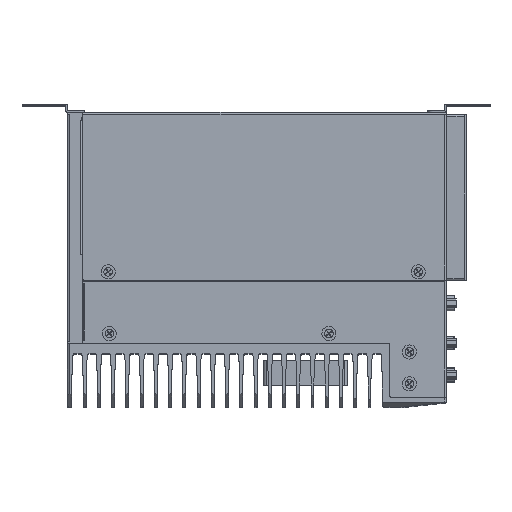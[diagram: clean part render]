
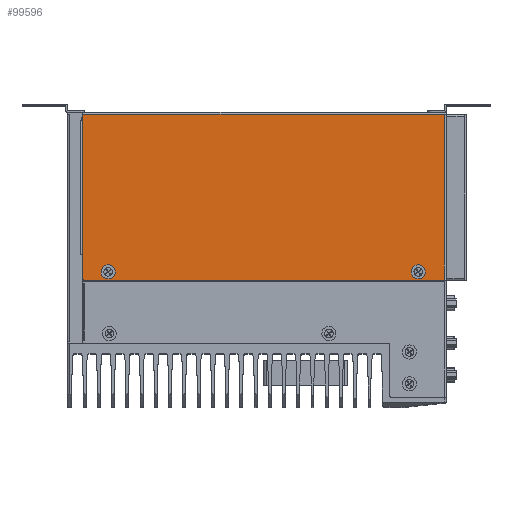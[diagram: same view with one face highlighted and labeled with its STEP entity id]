
A CAD part, top view. The second image highlights one B-rep face of the part: STEP entity #99596.
In plain terms, the highlighted planar face has unit normal (0, 0, 1) as drawn and (1, 0, 0) by its records, which use the part's own axes.
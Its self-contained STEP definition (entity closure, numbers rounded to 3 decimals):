
#3100 = ORIENTED_EDGE ( 'NONE', *, *, #84833, .F. ) ;
#4393 = CARTESIAN_POINT ( 'NONE',  ( 104.9, -108.4, -1.1 ) ) ;
#4553 = CARTESIAN_POINT ( 'NONE',  ( 104.9, 107.3, -100.1 ) ) ;
#9026 = DIRECTION ( 'NONE',  ( 0., 0., -1. ) ) ;
#10127 = VECTOR ( 'NONE', #46558, 1000. ) ;
#10491 = CARTESIAN_POINT ( 'NONE',  ( 104.9, -56.888, 0. ) ) ;
#10864 = VERTEX_POINT ( 'NONE', #95960 ) ;
#10897 = DIRECTION ( 'NONE',  ( 1., 0., 0. ) ) ;
#11321 = DIRECTION ( 'NONE',  ( 0., 0., 1. ) ) ;
#11492 = ORIENTED_EDGE ( 'NONE', *, *, #49297, .F. ) ;
#12716 = CIRCLE ( 'NONE', #95953, 1. ) ;
#13445 = ORIENTED_EDGE ( 'NONE', *, *, #74373, .F. ) ;
#15112 = CARTESIAN_POINT ( 'NONE',  ( 104.9, -108.4, -50.6 ) ) ;
#17454 = LINE ( 'NONE', #103134, #10127 ) ;
#19196 = AXIS2_PLACEMENT_3D ( 'NONE', #46713, #123680, #113720 ) ;
#20103 = CARTESIAN_POINT ( 'NONE',  ( 104.9, 108.4, -1.2 ) ) ;
#23943 = ORIENTED_EDGE ( 'NONE', *, *, #45579, .T. ) ;
#30615 = CARTESIAN_POINT ( 'NONE',  ( 104.9, 107.3, 0. ) ) ;
#31043 = DIRECTION ( 'NONE',  ( 0., 0., -1. ) ) ;
#31414 = VERTEX_POINT ( 'NONE', #113282 ) ;
#33744 = LINE ( 'NONE', #94937, #48772 ) ;
#36125 = DIRECTION ( 'NONE',  ( 0., 0., -1. ) ) ;
#36661 = EDGE_CURVE ( 'NONE', #117156, #10864, #62979, .T. ) ;
#40774 = ORIENTED_EDGE ( 'NONE', *, *, #96445, .F. ) ;
#41697 = VECTOR ( 'NONE', #11321, 1000. ) ;
#43891 = CARTESIAN_POINT ( 'NONE',  ( 104.9, 91.7, -92.65 ) ) ;
#44939 = CARTESIAN_POINT ( 'NONE',  ( 104.9, -107.4, -99.1 ) ) ;
#45579 = EDGE_CURVE ( 'NONE', #10864, #117156, #93081, .T. ) ;
#46107 = VERTEX_POINT ( 'NONE', #95664 ) ;
#46558 = DIRECTION ( 'NONE',  ( 0., -1., 0. ) ) ;
#46713 = CARTESIAN_POINT ( 'NONE',  ( 104.9, -93.3, -95.2 ) ) ;
#47371 = VERTEX_POINT ( 'NONE', #124147 ) ;
#48772 = VECTOR ( 'NONE', #66847, 1000. ) ;
#49297 = EDGE_CURVE ( 'NONE', #58208, #31414, #17454, .T. ) ;
#52972 = AXIS2_PLACEMENT_3D ( 'NONE', #86129, #85712, #9026 ) ;
#53087 = EDGE_CURVE ( 'NONE', #71326, #117621, #82234, .T. ) ;
#53608 = AXIS2_PLACEMENT_3D ( 'NONE', #84540, #112190, #121339 ) ;
#56484 = ORIENTED_EDGE ( 'NONE', *, *, #99614, .T. ) ;
#56513 = EDGE_CURVE ( 'NONE', #117621, #71326, #93091, .T. ) ;
#56546 = AXIS2_PLACEMENT_3D ( 'NONE', #10491, #10897, #88018 ) ;
#57088 = ORIENTED_EDGE ( 'NONE', *, *, #36661, .T. ) ;
#57522 = LINE ( 'NONE', #90001, #104024 ) ;
#58012 = LINE ( 'NONE', #30615, #41697 ) ;
#58208 = VERTEX_POINT ( 'NONE', #4553 ) ;
#60306 = VECTOR ( 'NONE', #84202, 1000. ) ;
#61209 = VERTEX_POINT ( 'NONE', #4393 ) ;
#62504 = CARTESIAN_POINT ( 'NONE',  ( 104.9, 107.3, -1.2 ) ) ;
#62979 = CIRCLE ( 'NONE', #53608, 2.55 ) ;
#65162 = ORIENTED_EDGE ( 'NONE', *, *, #94833, .F. ) ;
#66847 = DIRECTION ( 'NONE',  ( 0., -1., 0. ) ) ;
#69685 = EDGE_CURVE ( 'NONE', #31414, #47371, #12716, .T. ) ;
#71070 = ORIENTED_EDGE ( 'NONE', *, *, #56513, .T. ) ;
#71326 = VERTEX_POINT ( 'NONE', #73419 ) ;
#73115 = CARTESIAN_POINT ( 'NONE',  ( 104.9, -93.3, -97.75 ) ) ;
#73419 = CARTESIAN_POINT ( 'NONE',  ( 104.9, -93.3, -92.65 ) ) ;
#73784 = ORIENTED_EDGE ( 'NONE', *, *, #53087, .T. ) ;
#74373 = EDGE_CURVE ( 'NONE', #61209, #46107, #57522, .T. ) ;
#74567 = FACE_BOUND ( 'NONE', #122145, .T. ) ;
#75194 = VECTOR ( 'NONE', #80667, 1000. ) ;
#79635 = DIRECTION ( 'NONE',  ( -1., 0., 0. ) ) ;
#80505 = FACE_OUTER_BOUND ( 'NONE', #119230, .T. ) ;
#80667 = DIRECTION ( 'NONE',  ( 0., 0., -1. ) ) ;
#82234 = CIRCLE ( 'NONE', #19196, 2.55 ) ;
#82293 = CARTESIAN_POINT ( 'NONE',  ( 104.9, 108.4, -50.6 ) ) ;
#84202 = DIRECTION ( 'NONE',  ( 0., 0., 1. ) ) ;
#84540 = CARTESIAN_POINT ( 'NONE',  ( 104.9, 91.7, -95.2 ) ) ;
#84833 = EDGE_CURVE ( 'NONE', #47371, #61209, #106682, .T. ) ;
#85712 = DIRECTION ( 'NONE',  ( -1., 0., 0. ) ) ;
#86129 = CARTESIAN_POINT ( 'NONE',  ( 104.9, 91.7, -95.2 ) ) ;
#88018 = DIRECTION ( 'NONE',  ( 0., 0., -1. ) ) ;
#90001 = CARTESIAN_POINT ( 'NONE',  ( 104.9, 108.4, -1.1 ) ) ;
#93081 = CIRCLE ( 'NONE', #52972, 2.55 ) ;
#93091 = CIRCLE ( 'NONE', #93159, 2.55 ) ;
#93159 = AXIS2_PLACEMENT_3D ( 'NONE', #117644, #79635, #31043 ) ;
#94833 = EDGE_CURVE ( 'NONE', #116856, #105309, #33744, .T. ) ;
#94937 = CARTESIAN_POINT ( 'NONE',  ( 104.9, 107.85, -1.2 ) ) ;
#95664 = CARTESIAN_POINT ( 'NONE',  ( 104.9, 108.4, -1.1 ) ) ;
#95953 = AXIS2_PLACEMENT_3D ( 'NONE', #44939, #112738, #36125 ) ;
#95960 = CARTESIAN_POINT ( 'NONE',  ( 104.9, 91.7, -97.75 ) ) ;
#96445 = EDGE_CURVE ( 'NONE', #46107, #116856, #100734, .T. ) ;
#99596 = ADVANCED_FACE ( 'NONE', ( #99974, #74567, #80505 ), #106437, .T. ) ;
#99614 = EDGE_CURVE ( 'NONE', #58208, #105309, #58012, .T. ) ;
#99974 = FACE_BOUND ( 'NONE', #113584, .T. ) ;
#100734 = LINE ( 'NONE', #82293, #75194 ) ;
#103134 = CARTESIAN_POINT ( 'NONE',  ( 104.9, 0., -100.1 ) ) ;
#104024 = VECTOR ( 'NONE', #117573, 1000. ) ;
#105309 = VERTEX_POINT ( 'NONE', #62504 ) ;
#106437 = PLANE ( 'NONE',  #56546 ) ;
#106682 = LINE ( 'NONE', #15112, #60306 ) ;
#111875 = ORIENTED_EDGE ( 'NONE', *, *, #69685, .F. ) ;
#112190 = DIRECTION ( 'NONE',  ( -1., 0., 0. ) ) ;
#112738 = DIRECTION ( 'NONE',  ( -1., 0., 0. ) ) ;
#113282 = CARTESIAN_POINT ( 'NONE',  ( 104.9, -107.4, -100.1 ) ) ;
#113584 = EDGE_LOOP ( 'NONE', ( #71070, #73784 ) ) ;
#113720 = DIRECTION ( 'NONE',  ( 0., 0., -1. ) ) ;
#116856 = VERTEX_POINT ( 'NONE', #20103 ) ;
#117156 = VERTEX_POINT ( 'NONE', #43891 ) ;
#117573 = DIRECTION ( 'NONE',  ( 0., 1., 0. ) ) ;
#117621 = VERTEX_POINT ( 'NONE', #73115 ) ;
#117644 = CARTESIAN_POINT ( 'NONE',  ( 104.9, -93.3, -95.2 ) ) ;
#119230 = EDGE_LOOP ( 'NONE', ( #3100, #111875, #11492, #56484, #65162, #40774, #13445 ) ) ;
#121339 = DIRECTION ( 'NONE',  ( 0., 0., -1. ) ) ;
#122145 = EDGE_LOOP ( 'NONE', ( #23943, #57088 ) ) ;
#123680 = DIRECTION ( 'NONE',  ( -1., 0., 0. ) ) ;
#124147 = CARTESIAN_POINT ( 'NONE',  ( 104.9, -108.4, -99.1 ) ) ;
